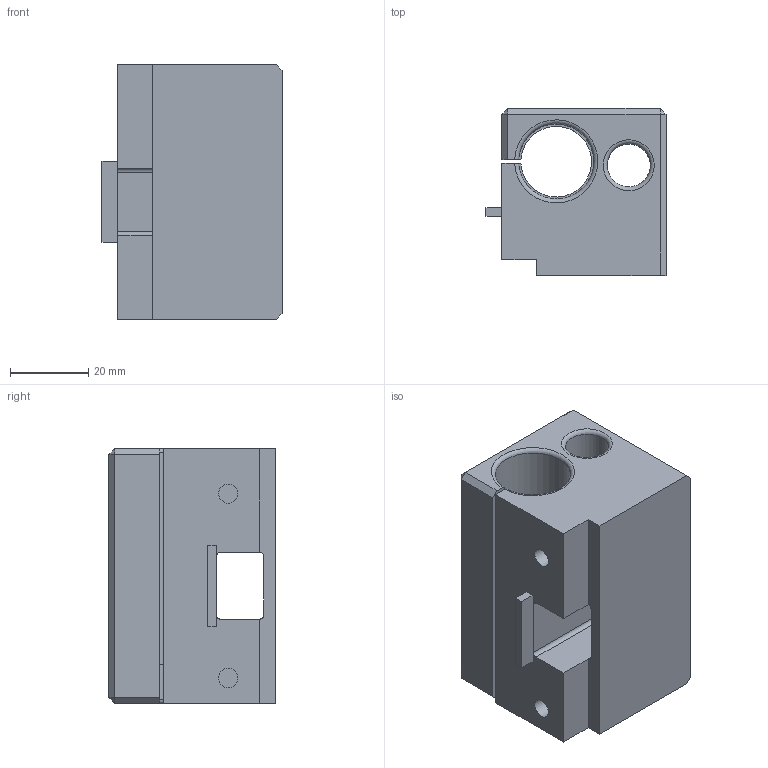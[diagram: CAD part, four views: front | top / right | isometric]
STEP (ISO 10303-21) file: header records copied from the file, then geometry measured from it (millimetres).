
FILE_DESCRIPTION(/* description */ ('STEP AP242','CAx-IF Rec.Pracs.---Representation and Presentation of Product Manufacturing Information (PMI)---4.0---2014-10-13','CAx-IF Rec.Pracs.---3D Tessellated Geometry---0.4---2014-09-14','2;1'),/* implementation_level */ '2;1');
FILE_NAME(/* name */ '6489253f9103e1555be1fb04',/* time_stamp */ '2023-06-14T02:26:08Z',/* author */ (''),/* organization */ (''),/* preprocessor_version */ 'ST-DEVELOPER v19.4',/* originating_system */ ' ',/* authorisation */ ' ');
FILE_SCHEMA (('AP242_MANAGED_MODEL_BASED_3D_ENGINEERING_MIM_LF { 1 0 10303 442 1 1 4 }'));
Length unit declared in the file: metre
Products named in the file (1): Left Block
Bounding box: 45.9 x 42.5 x 65 mm (x, y, z)
Volume: 73489.3 mm3; surface area: 23545.3 mm2
Topology: 1 solids, 1 shells, 88 faces, 211 edges, 131 vertices
Faces by surface type: plane 47, cylinder 25, torus 16
Full cylindrical faces by diameter (mm): 4 x2, 4.9 x2, 8 x2, 11 x1
Entity records: 2491 total; most frequent: DIRECTION 441, CARTESIAN_POINT 433, ORIENTED_EDGE 394, EDGE_CURVE 197, AXIS2_PLACEMENT_3D 160, VERTEX_POINT 128, LINE 121, VECTOR 121
